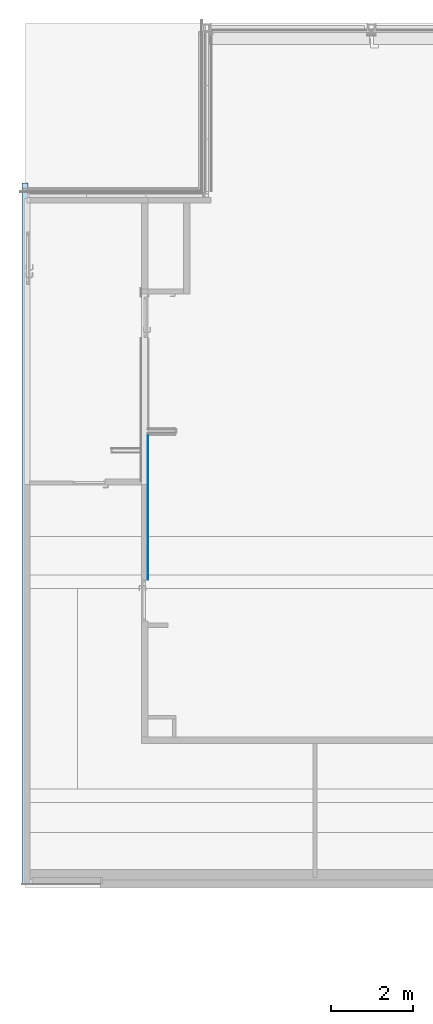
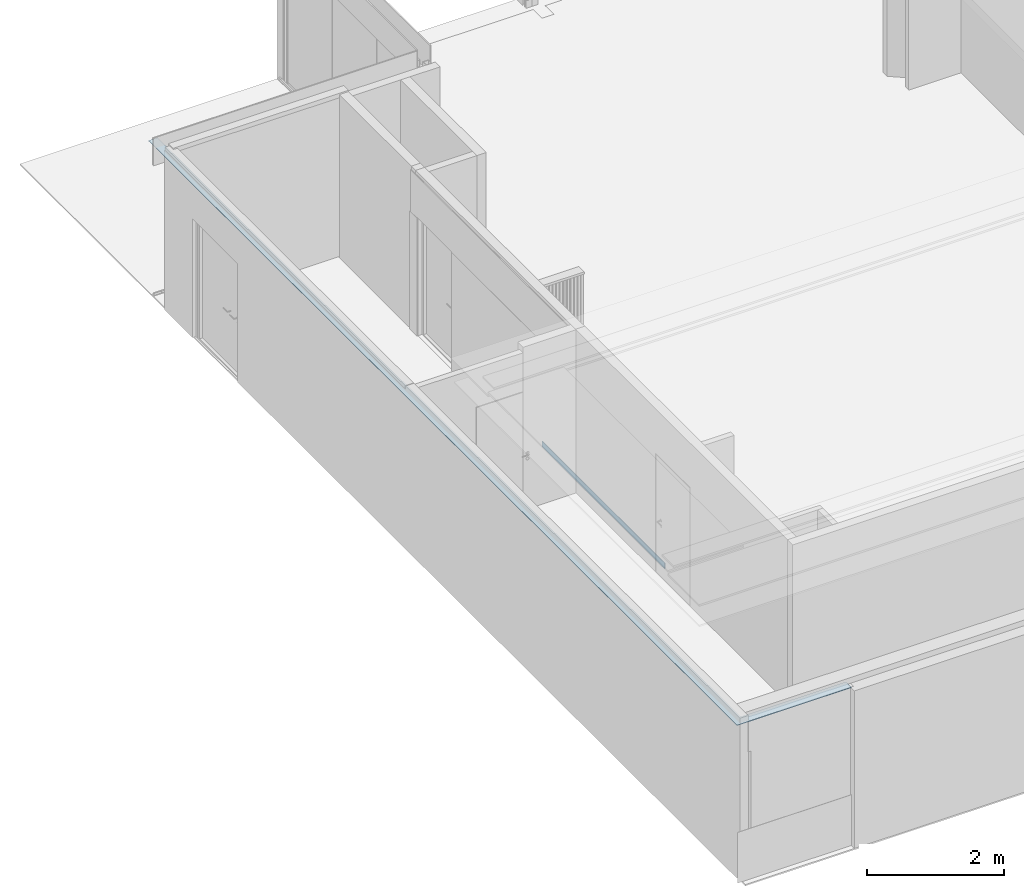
# One storey, part 12 of 37: 1 plate, 1 slab, 2 elements without a shape of their own.
"""IFC2X3 building model written with IfcOpenShell, lengths in millimetres."""

from ifc_helpers import new_model, entity, si_unit, converted_unit, derived_unit, direction, frame, frame_2d, origin, origin_with_axes, place, context, subcontext, project, spatial, polyline, rectangle, outline, extrude, source, transform, mapped, material, layer, layer_set, type_object, element, aggregate, save


model = new_model("IFC2X3")

# Units and contexts
model_context = context("Model", 3, precision=0.01, world=frame((0.0, 4.29681676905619e-09, 0.0)), true_north=direction((4.01073788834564e-13, 1.0)))
plan_context = context("Plan", 3, precision=0.01, world=frame((0.0, 4.29681676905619e-09, 0.0)), true_north=direction((4.01073788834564e-13, 1.0)))
body_context = subcontext(model_context, "Body", "Model", "MODEL_VIEW")
ifc_project = project(units=[converted_unit("PLANEANGLEUNIT", "DEGREE", entity("IfcPositiveLengthMeasure", 0.0174532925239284), si_unit("PLANEANGLEUNIT", "RADIAN"), dimensions=[0, 0, 0, 0, 0, 0, 0]), si_unit("AREAUNIT", "SQUARE_METRE"), si_unit("LENGTHUNIT", "METRE", prefix="MILLI"), si_unit("MASSUNIT", "GRAM", prefix="KILO"), si_unit("POWERUNIT", "WATT"), si_unit("PRESSUREUNIT", "PASCAL"), si_unit("FORCEUNIT", "NEWTON", prefix="KILO"), si_unit("ELECTRICVOLTAGEUNIT", "VOLT"), si_unit("ELECTRICCURRENTUNIT", "AMPERE"), si_unit("THERMODYNAMICTEMPERATUREUNIT", "DEGREE_CELSIUS"), si_unit("TIMEUNIT", "SECOND"), si_unit("VOLUMEUNIT", "CUBIC_METRE"), derived_unit("LINEARVELOCITYUNIT", [(si_unit("LENGTHUNIT", "METRE"), 1), (si_unit("TIMEUNIT", "SECOND"), -1)]), derived_unit("VOLUMETRICFLOWRATEUNIT", [(si_unit("VOLUMEUNIT", "CUBIC_METRE"), 1), (si_unit("TIMEUNIT", "SECOND"), -1)]), derived_unit("THERMALTRANSMITTANCEUNIT", [(si_unit("POWERUNIT", "WATT"), 1), (si_unit("THERMODYNAMICTEMPERATUREUNIT", "KELVIN"), -1), (si_unit("AREAUNIT", "SQUARE_METRE"), -1)]), derived_unit("SOUNDPRESSUREUNIT", [(si_unit("PRESSUREUNIT", "PASCAL"), 1)])], contexts=[model_context, plan_context])

# Site, building, storey
site_placement = place(None, origin_with_axes())
site = spatial("IfcSite", under=ifc_project, at=site_placement, Name="ENGM", CompositionType="ELEMENT")
building_placement = place(site_placement, origin_with_axes())
building = spatial("IfcBuilding", under=site, at=building_placement, Name="TS", CompositionType="ELEMENT")
storey_placement = place(building_placement, frame((0.0, 0.0, 210900.0), z_axis=(0.0, 0.0, 1.0), x_axis=(1.0, 0.0, 0.0)))
storey = spatial("IfcBuildingStorey", under=building, at=storey_placement, Name="Nivå F", CompositionType="ELEMENT", Elevation=210900.0)

# Curtain wall, plate
curtain_wall_type = type_object("IfcCurtainWallType", PredefinedType="NOTDEFINED")
curtain_wall_placement = place(storey_placement, frame((0.0, 0.0, -210900.0), z_axis=(0.0, 0.0, 1.0), x_axis=(1.0, 0.0, 0.0)))
curtain_wall = element("IfcCurtainWall", 1, at=curtain_wall_placement, inside=storey, type_object=curtain_wall_type)
ifc_material_1 = material(Name="_NSW Stål, rustfritt")
plate_type = type_object("IfcPlateType", Name="System Panel:A245 - KL-S01 - Veggkledning metallplate sokkel - IGK - 10mm", PredefinedType="CURTAIN_PANEL", material=ifc_material_1)
shared_shape = source(origin(), body_context, "Body", "SweptSolid", [
    extrude(rectangle(XDim=10.0, YDim=3575.41929934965, at=frame_2d((-4.44089209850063e-16, 0.0), x_axis=(1.0, 0.0))), frame((0.0, -5.0, 0.0), z_axis=(0.0, 0.0, 1.0), x_axis=(0.0, 1.0, 0.0)), (0.0, 0.0, 1.0), 100.000000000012),
])
plate_placement = place(curtain_wall_placement, frame((523534.500000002, 450092.209649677, 210900.0), z_axis=(0.0, 0.0, 1.0), x_axis=(0.0, 1.0, 0.0)))
plate = element("IfcPlate", 2, at=plate_placement, type_object=plate_type, material=ifc_material_1, Name="System Panel:A245 - KL-S01 - Veggkledning metallplate sokkel - IGK - 10mm", ObjectType="System Panel:A245 - KL-S01 - Veggkledning metallplate sokkel - IGK - 10mm", context=body_context, shape_type="MappedRepresentation", body=[
    mapped(shared_shape, transform((0.0, 0.0, 0.0), scale=1.0)),
])
aggregate(curtain_wall, [plate])

# Roof, slab
ifc_material_2 = material(Name="NO_Stål")
ifc_layer = layer(ifc_material_2, 10.0)
ifc_layer_set = layer_set([ifc_layer], Name="Basic Roof:A261 - stålplate - 10 mm")
roof_placement = place(storey_placement, frame((520456.0, 440862.999999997, 2800.0), z_axis=(0.0, 0.0, 1.0), x_axis=(1.0, 0.0, 0.0)))
roof = element("IfcRoof", 3, at=roof_placement, inside=storey, material=ifc_layer_set, Name="Basic Roof:A261 - stålplate - 10 mm", ObjectType="Basic Roof:A261 - stålplate - 10 mm", ShapeType="NOTDEFINED")
slab_placement = place(roof_placement, origin_with_axes())
slab = element("IfcSlab", 4, at=slab_placement, material=ifc_layer_set, Name="Basic Roof:A261 - stålplate - 10 mm", ObjectType="Basic Roof:A261 - stålplate - 10 mm", PredefinedType="ROOF", context=body_context, shape_type="SweptSolid", body=[
    extrude(outline(polyline([(-961.500000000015, 8568.50000000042), (-961.500000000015, -8568.50000000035), (-812.0, -8568.50000000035), (961.500000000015, -8568.50000000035), (961.500000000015, -8406.50000000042), (-812.0, -8406.50000000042), (-812.0, 8568.50000000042), (-961.500000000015, 8568.50000000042)])), frame((961.500000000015, 8568.50000000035, 0.0)), (0.0, 0.0, 1.0), 9.99999999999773),
])
aggregate(roof, [slab])

save(model, "model.ifc")
